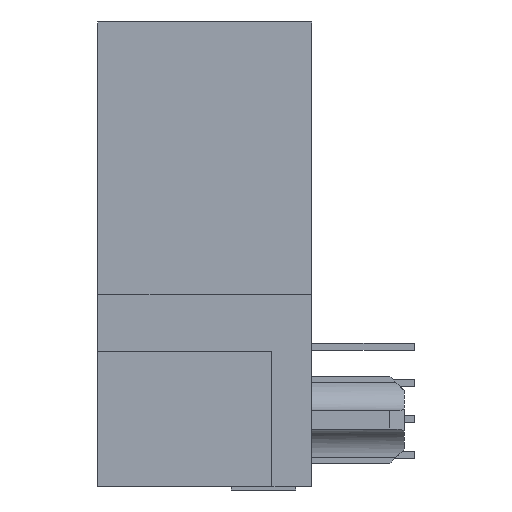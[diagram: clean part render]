
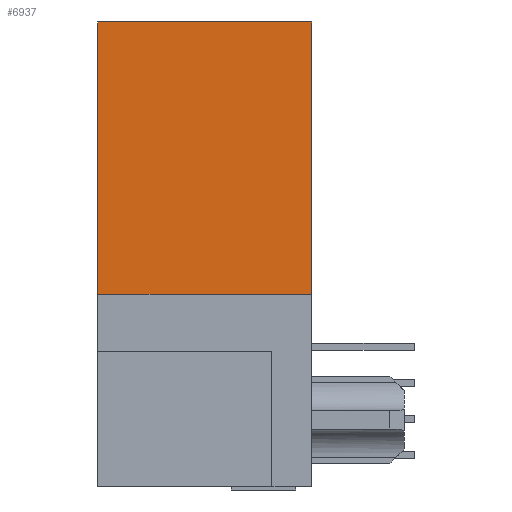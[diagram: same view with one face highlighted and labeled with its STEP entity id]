
A CAD part, left-side view. The second image highlights one B-rep face of the part: STEP entity #6937.
In plain terms, the highlighted planar face has unit normal (-1, 0, 0).
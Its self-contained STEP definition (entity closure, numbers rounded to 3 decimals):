
#17=DIRECTION('',(0.,0.,1.));
#18=VECTOR('',#17,9.55);
#19=CARTESIAN_POINT('',(-6.22,-4.1,-1.4));
#20=LINE('',#19,#18);
#209=DIRECTION('',(0.,1.,0.));
#210=VECTOR('',#209,7.5);
#211=CARTESIAN_POINT('',(-6.22,-4.1,8.15));
#212=LINE('',#211,#210);
#1329=DIRECTION('',(0.,0.,1.));
#1330=VECTOR('',#1329,9.55);
#1331=CARTESIAN_POINT('',(-6.22,3.4,-1.4));
#1332=LINE('',#1331,#1330);
#1357=DIRECTION('',(0.,1.,0.));
#1358=VECTOR('',#1357,7.5);
#1359=CARTESIAN_POINT('',(-6.22,-4.1,-1.4));
#1360=LINE('',#1359,#1358);
#4321=CARTESIAN_POINT('',(-6.22,-4.1,-1.4));
#4322=CARTESIAN_POINT('',(-6.22,-4.1,8.15));
#4323=VERTEX_POINT('',#4321);
#4324=VERTEX_POINT('',#4322);
#4329=CARTESIAN_POINT('',(-6.22,3.4,-1.4));
#4330=CARTESIAN_POINT('',(-6.22,3.4,8.15));
#4331=VERTEX_POINT('',#4329);
#4332=VERTEX_POINT('',#4330);
#6926=CARTESIAN_POINT('',(-6.22,-4.1,-1.4));
#6927=DIRECTION('',(-1.,0.,0.));
#6928=DIRECTION('',(0.,0.,1.));
#6929=AXIS2_PLACEMENT_3D('',#6926,#6927,#6928);
#6930=PLANE('',#6929);
#6931=ORIENTED_EDGE('',*,*,#5696,.F.);
#6932=ORIENTED_EDGE('',*,*,#6921,.T.);
#6933=ORIENTED_EDGE('',*,*,#6875,.T.);
#6934=ORIENTED_EDGE('',*,*,#5813,.F.);
#6935=EDGE_LOOP('',(#6931,#6932,#6933,#6934));
#6936=FACE_OUTER_BOUND('',#6935,.F.);
#6937=ADVANCED_FACE('',(#6936),#6930,.T.);
#5696=EDGE_CURVE('',#4323,#4324,#20,.T.);
#5813=EDGE_CURVE('',#4324,#4332,#212,.T.);
#6875=EDGE_CURVE('',#4331,#4332,#1332,.T.);
#6921=EDGE_CURVE('',#4323,#4331,#1360,.T.);
